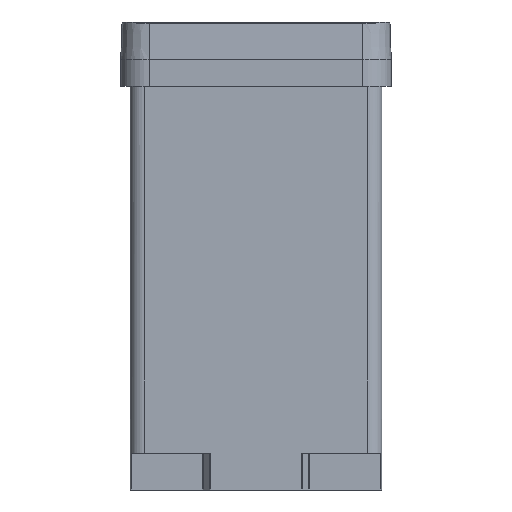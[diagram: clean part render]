
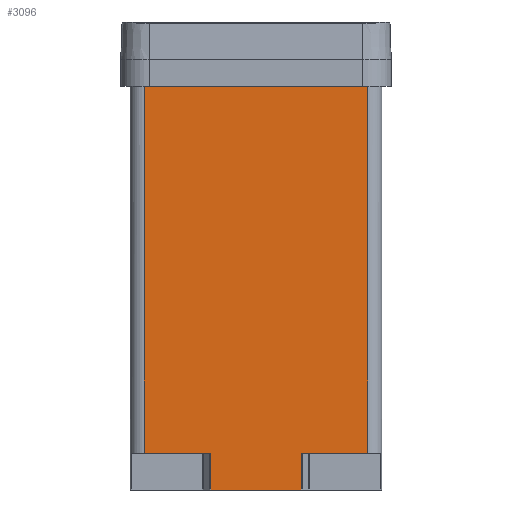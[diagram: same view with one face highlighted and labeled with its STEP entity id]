
A CAD part, front view. The second image highlights one B-rep face of the part: STEP entity #3096.
In plain terms, the highlighted planar face has unit normal (0, -1, 0).
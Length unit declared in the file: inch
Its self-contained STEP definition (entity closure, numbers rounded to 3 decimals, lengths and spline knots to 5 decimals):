
#64 = EDGE_CURVE ( 'NONE', #9787, #10510, #3322, .T. ) ;
#157 = VERTEX_POINT ( 'NONE', #8225 ) ;
#297 = DIRECTION ( 'NONE',  ( 0., 0., -1. ) ) ;
#520 = DIRECTION ( 'NONE',  ( -1., 0., 0. ) ) ;
#550 = LINE ( 'NONE', #6867, #930 ) ;
#643 = VERTEX_POINT ( 'NONE', #7574 ) ;
#930 = VECTOR ( 'NONE', #4110, 39.37008 ) ;
#1442 = CARTESIAN_POINT ( 'NONE',  ( -0.78125, -1.809, -3.0125 ) ) ;
#1540 = LINE ( 'NONE', #10446, #9240 ) ;
#1632 = ORIENTED_EDGE ( 'NONE', *, *, #1891, .T. ) ;
#1865 = CARTESIAN_POINT ( 'NONE',  ( -0.78125, -1.809, -3.27 ) ) ;
#1891 = EDGE_CURVE ( 'NONE', #643, #8048, #1540, .T. ) ;
#1959 = CARTESIAN_POINT ( 'NONE',  ( -0.78125, -1.809, -0.45 ) ) ;
#2086 = DIRECTION ( 'NONE',  ( 0., 0., 1. ) ) ;
#2158 = VECTOR ( 'NONE', #520, 39.37008 ) ;
#2324 = EDGE_CURVE ( 'NONE', #5120, #10510, #550, .T. ) ;
#2352 = VECTOR ( 'NONE', #7835, 39.37008 ) ;
#2546 = EDGE_CURVE ( 'NONE', #643, #5090, #5751, .T. ) ;
#2868 = CARTESIAN_POINT ( 'NONE',  ( -0.78125, -1.809, -3.0125 ) ) ;
#3026 = ORIENTED_EDGE ( 'NONE', *, *, #3568, .F. ) ;
#3096 = ADVANCED_FACE ( 'NONE', ( #3613 ), #9737, .F. ) ;
#3322 = LINE ( 'NONE', #3383, #10358 ) ;
#3383 = CARTESIAN_POINT ( 'NONE',  ( -0.78125, -1.809, -3.27 ) ) ;
#3400 = AXIS2_PLACEMENT_3D ( 'NONE', #1865, #5384, #2086 ) ;
#3568 = EDGE_CURVE ( 'NONE', #5090, #9787, #8173, .T. ) ;
#3613 = FACE_OUTER_BOUND ( 'NONE', #5924, .T. ) ;
#3830 = EDGE_CURVE ( 'NONE', #11286, #157, #7943, .T. ) ;
#3965 = ORIENTED_EDGE ( 'NONE', *, *, #7604, .F. ) ;
#4110 = DIRECTION ( 'NONE',  ( 0., 0., -1. ) ) ;
#5090 = VERTEX_POINT ( 'NONE', #7025 ) ;
#5120 = VERTEX_POINT ( 'NONE', #5192 ) ;
#5192 = CARTESIAN_POINT ( 'NONE',  ( -0.31632, -1.809, -3.0125 ) ) ;
#5384 = DIRECTION ( 'NONE',  ( 0., 1., 0. ) ) ;
#5751 = LINE ( 'NONE', #1442, #2158 ) ;
#5903 = VECTOR ( 'NONE', #10858, 39.37008 ) ;
#5924 = EDGE_LOOP ( 'NONE', ( #9316, #1632, #7767, #10862, #3965, #8581, #6444, #3026 ) ) ;
#6099 = CARTESIAN_POINT ( 'NONE',  ( -0.78125, -1.809, -3.27 ) ) ;
#6439 = LINE ( 'NONE', #1959, #5903 ) ;
#6444 = ORIENTED_EDGE ( 'NONE', *, *, #64, .F. ) ;
#6867 = CARTESIAN_POINT ( 'NONE',  ( -0.31632, -1.809, -3.0125 ) ) ;
#7025 = CARTESIAN_POINT ( 'NONE',  ( 0.31382, -1.809, -3.0125 ) ) ;
#7176 = LINE ( 'NONE', #2868, #8207 ) ;
#7468 = CARTESIAN_POINT ( 'NONE',  ( 0.31382, -1.809, -3.27 ) ) ;
#7574 = CARTESIAN_POINT ( 'NONE',  ( 0.77875, -1.809, -3.0125 ) ) ;
#7604 = EDGE_CURVE ( 'NONE', #5120, #11286, #7176, .T. ) ;
#7683 = DIRECTION ( 'NONE',  ( -1., 0., 0. ) ) ;
#7767 = ORIENTED_EDGE ( 'NONE', *, *, #9415, .T. ) ;
#7819 = DIRECTION ( 'NONE',  ( 0., 0., 1. ) ) ;
#7835 = DIRECTION ( 'NONE',  ( 0., 0., 1. ) ) ;
#7923 = CARTESIAN_POINT ( 'NONE',  ( -0.78125, -1.809, -3.0125 ) ) ;
#7943 = LINE ( 'NONE', #6099, #2352 ) ;
#8048 = VERTEX_POINT ( 'NONE', #8187 ) ;
#8173 = LINE ( 'NONE', #10644, #8573 ) ;
#8187 = CARTESIAN_POINT ( 'NONE',  ( 0.77875, -1.809, -0.45 ) ) ;
#8207 = VECTOR ( 'NONE', #8257, 39.37008 ) ;
#8225 = CARTESIAN_POINT ( 'NONE',  ( -0.78125, -1.809, -0.45 ) ) ;
#8257 = DIRECTION ( 'NONE',  ( -1., 0., 0. ) ) ;
#8573 = VECTOR ( 'NONE', #297, 39.37008 ) ;
#8581 = ORIENTED_EDGE ( 'NONE', *, *, #2324, .T. ) ;
#8763 = CARTESIAN_POINT ( 'NONE',  ( -0.31632, -1.809, -3.27 ) ) ;
#9240 = VECTOR ( 'NONE', #7819, 39.37008 ) ;
#9316 = ORIENTED_EDGE ( 'NONE', *, *, #2546, .F. ) ;
#9415 = EDGE_CURVE ( 'NONE', #8048, #157, #6439, .T. ) ;
#9737 = PLANE ( 'NONE',  #3400 ) ;
#9787 = VERTEX_POINT ( 'NONE', #7468 ) ;
#10358 = VECTOR ( 'NONE', #7683, 39.37008 ) ;
#10446 = CARTESIAN_POINT ( 'NONE',  ( 0.77875, -1.809, -3.27 ) ) ;
#10510 = VERTEX_POINT ( 'NONE', #8763 ) ;
#10644 = CARTESIAN_POINT ( 'NONE',  ( 0.31382, -1.809, -3.0125 ) ) ;
#10858 = DIRECTION ( 'NONE',  ( -1., 0., 0. ) ) ;
#10862 = ORIENTED_EDGE ( 'NONE', *, *, #3830, .F. ) ;
#11286 = VERTEX_POINT ( 'NONE', #7923 ) ;
